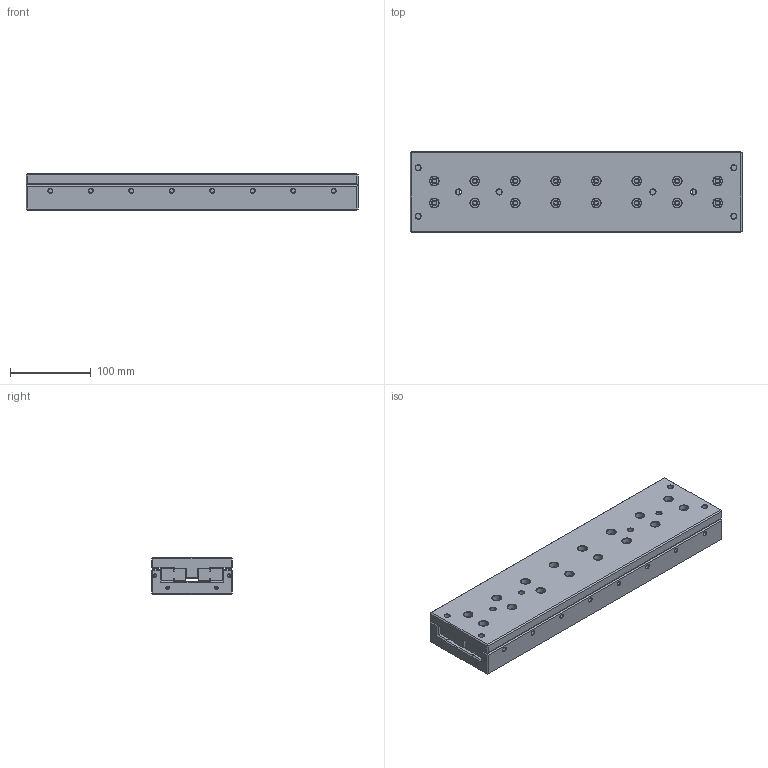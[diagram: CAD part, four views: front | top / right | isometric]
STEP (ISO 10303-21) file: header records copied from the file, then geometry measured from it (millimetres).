
FILE_DESCRIPTION(/* description */ (''),/* implementation_level */ '2;1');
FILE_NAME(/* name */ 'cru6410_stp_stp.stp',/* time_stamp */ '2017-02-28T09:48:30+08:00',/* author */ (''),/* organization */ (''),/* preprocessor_version */ 'ST-DEVELOPER v15',/* originating_system */ 'SIEMENS PLM Software NX 8.5',/* authorisation */ '');
FILE_SCHEMA (('AUTOMOTIVE_DESIGN { 1 0 10303 214 3 1 1 1 }'));
Length unit declared in the file: millimetre
Products named in the file (4): CRU6310-0270; CRU6310-GV630071; CRU6310-0172; cru6410_stp_stp
Assembly tree (4 placements, depth 2):
  cru6410_stp_stp
    CRU6310-0172
    CRU6310-GV630071  x2
    CRU6310-0270
Bounding box: 410 x 100 x 45 mm (x, y, z)
Volume: 1682329.3 mm3; surface area: 342358.6 mm2
Topology: 4 solids, 4 shells, 528 faces, 1363 edges, 903 vertices
Faces by surface type: plane 196, cylinder 179, cone 153
Full cylindrical faces by diameter (mm): 3.3 x8, 4.95 x3, 5 x54, 6.6 x40, 11 x72
Entity records: 11734 total; most frequent: DIRECTION 2096, CARTESIAN_POINT 1881, ORIENTED_EDGE 1510, EDGE_LOOP 936, AXIS2_PLACEMENT_3D 893, FACE_BOUND 847, EDGE_CURVE 755, VERTEX_POINT 642
